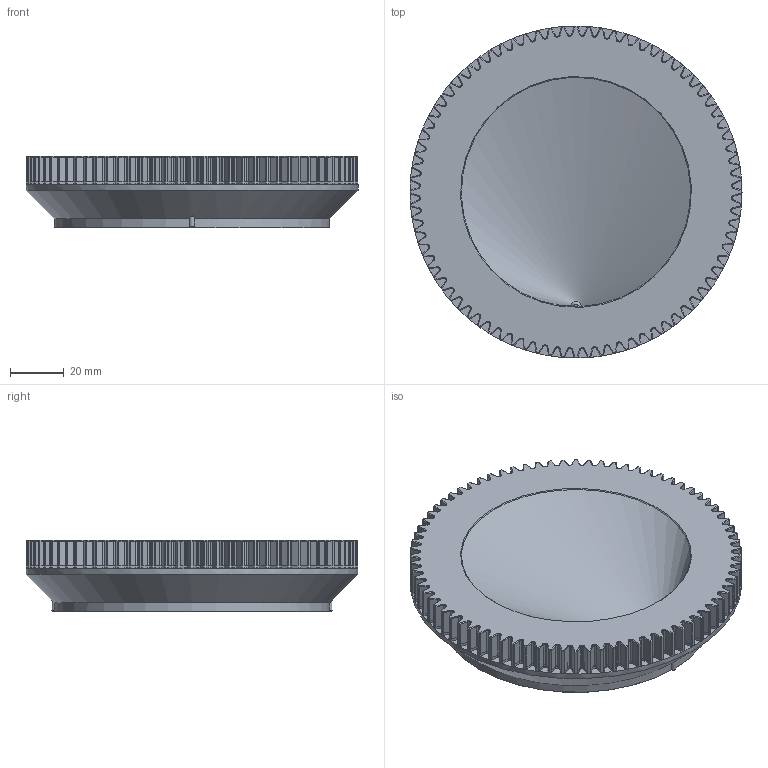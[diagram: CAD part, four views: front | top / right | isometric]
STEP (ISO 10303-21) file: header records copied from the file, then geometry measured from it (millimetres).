
FILE_DESCRIPTION(/* description */ ('Alibre Inc.'),/* implementation_level */ '2;1');
FILE_NAME(/* name */ 'export-30401365-9134-4981-BAD5-DD7EC76DFA47',/* time_stamp */ '2026-02-03T10:54:09+00:00',/* author */ (''),/* organization */ (''),/* preprocessor_version */ 'ST-DEVELOPER v17',/* originating_system */ 'Alibre',/* authorisation */ '');
FILE_SCHEMA (('CONFIG_CONTROL_DESIGN'));
Length unit declared in the file: millimetre
Products named in the file (1): InternalInvoluteGear
Bounding box: 123.09 x 123.09 x 26.49 mm (x, y, z)
Volume: 120411.2 mm3; surface area: 48203.1 mm2
Topology: 1 solids, 1 shells, 1844 faces, 4539 edges, 2545 vertices
Faces by surface type: cylinder 663, bspline 480, plane 368, cone 331, torus 2
Full cylindrical faces by diameter (mm): 4.2 x8, 57.1 x1, 85 x2, 87.3 x1, 96 x1, 123.1 x1
Entity records: 86950 total; most frequent: CARTESIAN_POINT 47175, ORIENTED_EDGE 8710, DIRECTION 7221, EDGE_CURVE 4355, VERTEX_POINT 2541, AXIS2_PLACEMENT_3D 2539, VECTOR 2511, LINE 2511
